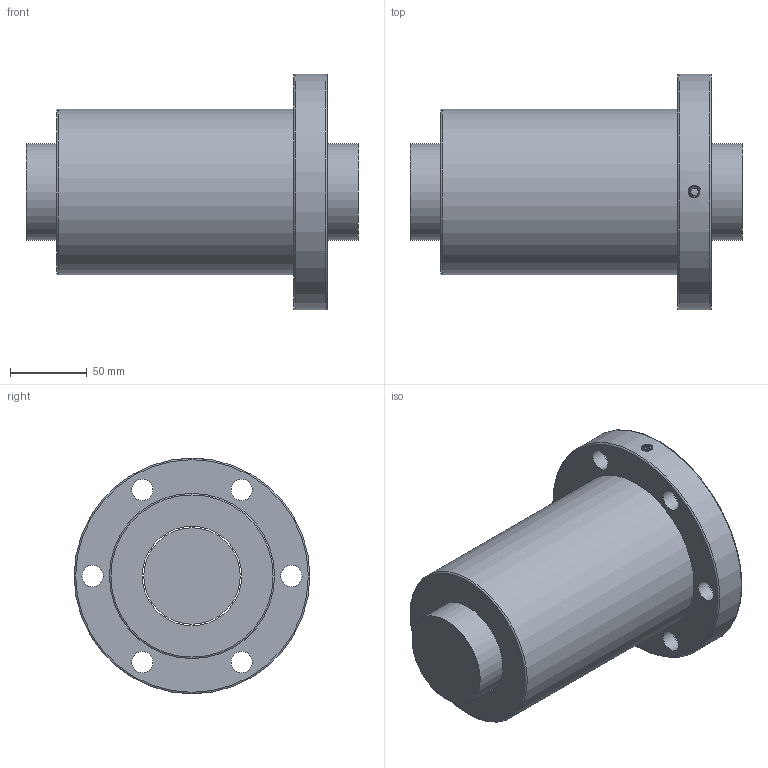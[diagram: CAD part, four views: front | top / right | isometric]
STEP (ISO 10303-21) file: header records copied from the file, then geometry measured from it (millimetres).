
FILE_DESCRIPTION(/* description */ ('Unknown','CAx-IF Rec.Pracs.---Representation and Presentation of Product Manufacturing Information (PMI)---4.0---2014-10-13','CAx-IF Rec.Pracs.---3D Tessellated Geometry---0.4---2014-09-14','2;1'),/* implementation_level */ '2;1');
FILE_NAME(/* name */ 'OFV06310-4.8',/* time_stamp */ '2020-12-08T11:56:16+08:00',/* author */ ('Unknown'),/* organization */ ('Unknown'),/* preprocessor_version */ 'ST-DEVELOPER v16.7',/* originating_system */ 'Solid Edge',/* authorisation */ 'Unknown');
FILE_SCHEMA (('AP242_MANAGED_MODEL_BASED_3D_ENGINEERING_MIM_LF { 1 0 10303 442 1 1 4 }'));
Length unit declared in the file: millimetre
Products named in the file (1): OFV06310-4.8
Bounding box: 217 x 154 x 154 mm (x, y, z)
Volume: 1884600.1 mm3; surface area: 184926 mm2
Topology: 2 solids, 2 shells, 37 faces, 73 edges, 47 vertices
Faces by surface type: cylinder 19, plane 12, torus 3, bspline 2, cone 1
Full cylindrical faces by diameter (mm): 5 x1, 14 x6, 20 x6, 63 x1, 65 x1, 108 x1, 154 x1
Entity records: 3258 total; most frequent: CARTESIAN_POINT 2473, DIRECTION 156, ORIENTED_EDGE 100, EDGE_LOOP 81, FACE_BOUND 81, AXIS2_PLACEMENT_3D 79, EDGE_CURVE 50, VERTEX_POINT 45
